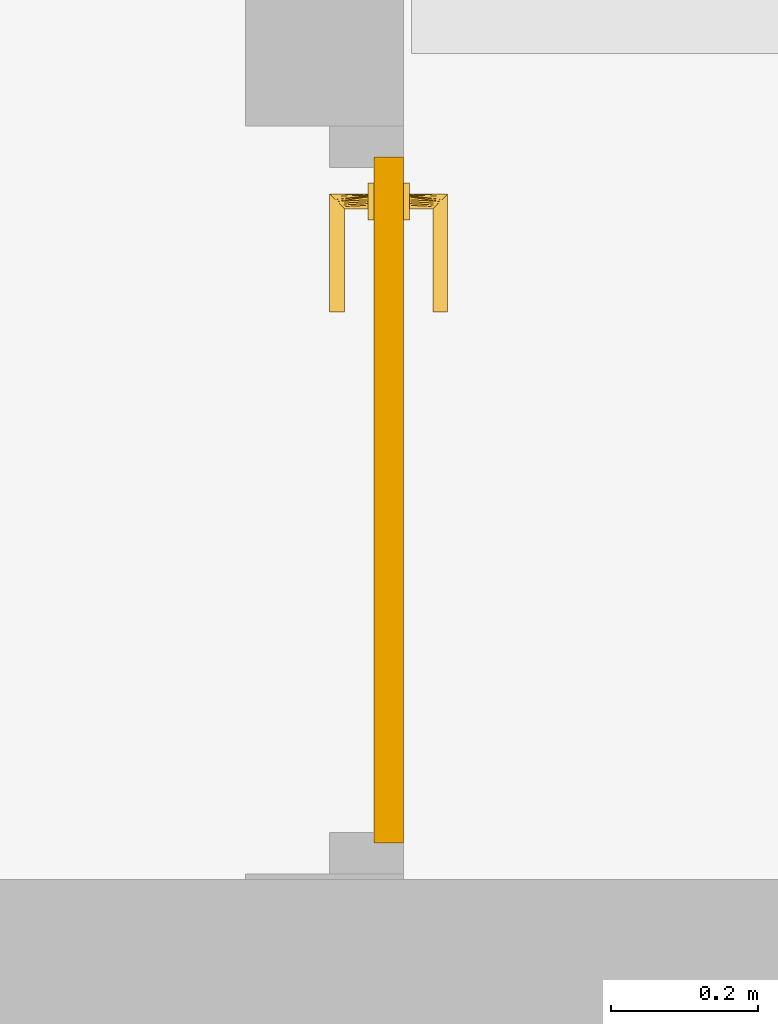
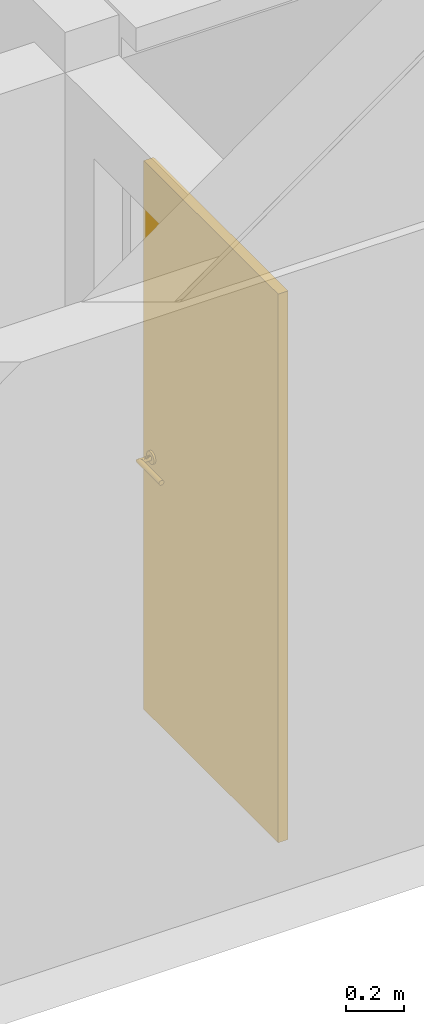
# One storey, part 16 of 22: 1 door.
"""IFC2X3 building model written with IfcOpenShell, lengths in millimetres."""

from ifc_helpers import new_model, entity, si_unit, converted_unit, derived_unit, money_unit, direction, frame, origin_with_axes, place, context, subcontext, project, spatial, faceted_brep, source, transform, mapped, material, type_object, type_shapes, element, save


model = new_model("IFC2X3")

# Units and contexts
model_context = context("Model", 3, precision=0.01, world=origin_with_axes(), true_north=direction((0.0, 1.0)))
body_context = subcontext(model_context, "Body", "Model", "MODEL_VIEW")
ifc_project = project(units=[si_unit("LENGTHUNIT", "METRE", prefix="MILLI"), si_unit("AREAUNIT", "SQUARE_METRE"), si_unit("VOLUMEUNIT", "CUBIC_METRE"), converted_unit("PLANEANGLEUNIT", "DEGREE", entity("IfcPlaneAngleMeasure", 0.0174532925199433), si_unit("PLANEANGLEUNIT", "RADIAN"), dimensions=[0, 0, 0, 0, 0, 0, 0]), money_unit("EUR"), converted_unit("TIMEUNIT", "Year", entity("IfcTimeMeasure", 31557600.0), si_unit("TIMEUNIT", "SECOND"), dimensions=[0, 0, 1, 0, 0, 0, 0]), si_unit("MASSUNIT", "GRAM", prefix="KILO"), si_unit("THERMODYNAMICTEMPERATUREUNIT", "DEGREE_CELSIUS"), si_unit("LUMINOUSINTENSITYUNIT", "LUMEN"), si_unit("ENERGYUNIT", "JOULE", prefix="MEGA"), derived_unit("THERMALCONDUCTANCEUNIT", [(si_unit("POWERUNIT", "WATT"), 1), (si_unit("LENGTHUNIT", "METRE"), -1), (si_unit("THERMODYNAMICTEMPERATUREUNIT", "KELVIN"), -1)]), derived_unit("SPECIFICHEATCAPACITYUNIT", [(si_unit("ENERGYUNIT", "JOULE"), 1), (si_unit("MASSUNIT", "GRAM", prefix="KILO"), -1), (si_unit("THERMODYNAMICTEMPERATUREUNIT", "KELVIN"), -1)]), derived_unit("MASSDENSITYUNIT", [(si_unit("MASSUNIT", "GRAM", prefix="KILO"), 1), (si_unit("VOLUMEUNIT", "CUBIC_METRE"), -1)])], contexts=[model_context])

# Site, building, storey
site_placement = place(None, origin_with_axes())
site = spatial("IfcSite", under=ifc_project, at=site_placement, Name="Site", CompositionType="ELEMENT")
building_placement = place(site_placement, origin_with_axes())
building = spatial("IfcBuilding", under=site, at=building_placement, Name="Naam gebouw", CompositionType="ELEMENT")
storey_placement = place(building_placement, frame((0.0, 0.0, 8690.0), z_axis=(0.0, 0.0, 1.0), x_axis=(1.0, 0.0, 0.0)))
storey = spatial("IfcBuildingStorey", under=building, at=storey_placement, Name="2e verdieping V", CompositionType="ELEMENT", Elevation=8690.0)

# Door
ifc_material = material(Name="<Unnamed>")
door_style = type_object("IfcDoorStyle", Name="NLRS_32_deur stomp dicht_WID:Deur", ConstructionType="NOTDEFINED", OperationType="NOTDEFINED", ParameterTakesPrecedence=False, Sizeable=False)
shared_shape = source(origin_with_axes(), body_context, "Body", "Brep", [
    faceted_brep([(417.5000000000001, -65.96445239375, 1078.34936490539), (407.58819045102, -65.96445239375, 1090.34074173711), (410.0000000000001, -65.96445239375, 1091.33974596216), (411.4704761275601, -65.96445239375, 1075.85185434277), (410.0000000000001, -74.00000000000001, 1091.33974596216), (407.58819045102, -74.00000000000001, 1090.34074173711), (422.6776695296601, -65.96445239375, 1082.32233047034), (411.4704761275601, -74.00000000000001, 1075.85185434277), (417.5000000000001, -74.00000000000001, 1078.34936490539), (405.0, -65.96445239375, 1090.0), (412.0710678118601, -74.00000000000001, 1092.92893218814), (412.0710678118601, -65.96445239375, 1092.92893218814), (405.0, -74.00000000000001, 1090.0), (422.6776695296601, -74.00000000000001, 1082.32233047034), (405.0, -74.00000000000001, 1075.0), (405.0, -65.96445239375, 1075.0), (413.66025403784, -65.96445239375, 1095.0), (413.66025403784, -74.00000000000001, 1095.0), (402.41180954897, -74.00000000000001, 1090.34074173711), (402.41180954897, -65.96445239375, 1090.34074173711), (426.6506350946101, -65.96445239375, 1087.5), (426.6506350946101, -74.00000000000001, 1087.5), (398.52952387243, -74.00000000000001, 1075.85185434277), (398.52952387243, -65.96445239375, 1075.85185434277), (414.65925826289, -74.00000000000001, 1097.41180954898), (414.65925826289, -65.96445239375, 1097.41180954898), (400.0, -65.96445239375, 1091.33974596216), (400.0, -74.00000000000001, 1091.33974596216), (429.14814565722, -74.00000000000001, 1093.52952387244), (429.14814565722, -65.96445239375, 1093.52952387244), (392.5, -74.00000000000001, 1078.34936490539), (392.5, -65.96445239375, 1078.34936490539), (415.0000000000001, -74.00000000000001, 1100.0), (415.0000000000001, -65.96445239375, 1100.0), (397.92893218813, -65.96445239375, 1092.92893218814), (397.92893218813, -74.00000000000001, 1092.92893218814), (430.0000000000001, -65.96445239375, 1100.0), (430.0000000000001, -74.00000000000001, 1100.0), (387.32233047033, -74.00000000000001, 1082.32233047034), (387.32233047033, -65.96445239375, 1082.32233047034), (414.65925826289, -74.00000000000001, 1102.58819045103), (414.65925826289, -65.96445239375, 1102.58819045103), (396.3397459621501, -65.96445239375, 1095.0), (396.3397459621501, -74.00000000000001, 1095.0), (429.14814565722, -65.96445239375, 1106.47047612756), (429.14814565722, -74.00000000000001, 1106.47047612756), (383.3493649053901, -74.00000000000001, 1087.5), (383.3493649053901, -65.96445239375, 1087.5), (413.66025403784, -74.00000000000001, 1105.0), (413.66025403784, -65.96445239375, 1105.0), (395.34074173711, -65.96445239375, 1097.41180954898), (395.34074173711, -74.00000000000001, 1097.41180954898), (426.6506350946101, -65.96445239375, 1112.5), (426.6506350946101, -74.00000000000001, 1112.5), (380.8518543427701, -74.00000000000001, 1093.52952387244), (380.8518543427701, -65.96445239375, 1093.52952387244), (412.0710678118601, -65.96445239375, 1107.07106781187), (412.0710678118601, -74.00000000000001, 1107.07106781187), (395.0, -65.96445239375, 1100.0), (395.0, -74.00000000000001, 1100.0), (422.6776695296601, -65.96445239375, 1117.67766952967), (422.6776695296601, -74.00000000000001, 1117.67766952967), (380.0000000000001, -74.00000000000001, 1100.0), (380.0000000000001, -65.96445239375, 1100.0), (410.0000000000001, -74.00000000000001, 1108.66025403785), (410.0000000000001, -65.96445239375, 1108.66025403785), (395.34074173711, -65.96445239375, 1102.58819045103), (395.34074173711, -74.00000000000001, 1102.58819045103), (417.5000000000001, -74.00000000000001, 1121.65063509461), (417.5000000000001, -65.96445239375, 1121.65063509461), (380.8518543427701, -74.00000000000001, 1106.47047612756), (380.8518543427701, -65.96445239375, 1106.47047612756), (407.58819045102, -74.00000000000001, 1109.65925826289), (407.58819045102, -65.96445239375, 1109.65925826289), (396.3397459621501, -65.96445239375, 1105.0), (396.3397459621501, -74.00000000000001, 1105.0), (411.4704761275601, -74.00000000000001, 1124.14814565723), (411.4704761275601, -65.96445239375, 1124.14814565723), (383.3493649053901, -74.00000000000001, 1112.5), (383.3493649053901, -65.96445239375, 1112.5), (405.0, -74.00000000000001, 1110.0), (405.0, -65.96445239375, 1110.0), (397.92893218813, -65.96445239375, 1107.07106781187), (397.92893218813, -74.00000000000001, 1107.07106781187), (405.0, -65.96445239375, 1125.0), (405.0, -74.00000000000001, 1125.0), (387.32233047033, -74.00000000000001, 1117.67766952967), (387.32233047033, -65.96445239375, 1117.67766952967), (402.41180954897, -74.00000000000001, 1109.65925826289), (402.41180954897, -65.96445239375, 1109.65925826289), (400.0, -65.96445239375, 1108.66025403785), (400.0, -74.00000000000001, 1108.66025403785), (398.52952387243, -65.96445239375, 1124.14814565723), (398.52952387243, -74.00000000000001, 1124.14814565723), (392.5, -74.00000000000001, 1121.65063509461), (392.5, -65.96445239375, 1121.65063509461)], [[[0, 1, 2]], [[0, 3, 1]], [[4, 2, 1, 5]], [[0, 2, 6]], [[7, 3, 0, 8]], [[9, 1, 3]], [[10, 11, 2, 4]], [[5, 1, 9, 12]], [[5, 8, 4]], [[11, 6, 2]], [[6, 13, 8, 0]], [[14, 15, 3, 7]], [[8, 5, 7]], [[15, 9, 3]], [[16, 11, 10, 17]], [[10, 4, 13]], [[18, 12, 9, 19]], [[12, 7, 5]], [[4, 8, 13]], [[11, 20, 6]], [[21, 13, 6, 20]], [[22, 23, 15, 14]], [[14, 7, 12]], [[9, 15, 19]], [[16, 20, 11]], [[17, 10, 21]], [[16, 17, 24, 25]], [[21, 10, 13]], [[12, 18, 14]], [[26, 27, 18, 19]], [[28, 21, 20, 29]], [[22, 30, 31, 23]], [[23, 19, 15]], [[22, 14, 18]], [[20, 16, 25]], [[28, 17, 21]], [[17, 28, 24]], [[25, 24, 32, 33]], [[34, 35, 27, 26]], [[27, 22, 18]], [[23, 26, 19]], [[20, 25, 29]], [[28, 29, 36, 37]], [[27, 30, 22]], [[30, 38, 39, 31]], [[26, 23, 31]], [[24, 28, 37]], [[37, 32, 24]], [[40, 41, 33, 32]], [[25, 33, 29]], [[34, 42, 43, 35]], [[30, 27, 35]], [[26, 31, 34]], [[36, 29, 33]], [[37, 36, 44, 45]], [[38, 30, 35]], [[39, 38, 46, 47]], [[39, 34, 31]], [[37, 45, 32]], [[48, 49, 41, 40]], [[36, 33, 41]], [[40, 32, 45]], [[34, 39, 42]], [[43, 42, 50, 51]], [[35, 43, 38]], [[41, 44, 36]], [[45, 44, 52, 53]], [[43, 46, 38]], [[54, 55, 47, 46]], [[42, 39, 47]], [[56, 49, 48, 57]], [[49, 44, 41]], [[53, 48, 40]], [[53, 40, 45]], [[42, 47, 50]], [[51, 50, 58, 59]], [[43, 51, 54]], [[44, 49, 52]], [[60, 61, 53, 52]], [[46, 43, 54]], [[62, 63, 55, 54]], [[50, 47, 55]], [[49, 56, 52]], [[48, 53, 57]], [[56, 57, 64, 65]], [[58, 50, 55]], [[66, 67, 59, 58]], [[51, 59, 62]], [[54, 51, 62]], [[68, 61, 60, 69]], [[57, 53, 61]], [[52, 56, 60]], [[70, 71, 63, 62]], [[63, 58, 55]], [[57, 61, 64]], [[65, 64, 72, 73]], [[56, 65, 60]], [[74, 75, 67, 66]], [[59, 67, 70]], [[66, 58, 63]], [[62, 59, 70]], [[68, 64, 61]], [[65, 69, 60]], [[76, 68, 69, 77]], [[70, 78, 79, 71]], [[71, 66, 63]], [[68, 72, 64]], [[72, 80, 81, 73]], [[73, 69, 65]], [[74, 82, 83, 75]], [[75, 78, 67]], [[74, 66, 71]], [[67, 78, 70]], [[68, 76, 72]], [[69, 73, 77]], [[76, 77, 84, 85]], [[78, 86, 87, 79]], [[79, 74, 71]], [[80, 72, 76]], [[88, 89, 81, 80]], [[81, 77, 73]], [[82, 74, 87]], [[83, 82, 90, 91]], [[83, 86, 75]], [[75, 86, 78]], [[84, 77, 81]], [[85, 84, 92, 93]], [[85, 80, 76]], [[87, 86, 94, 95]], [[74, 79, 87]], [[91, 90, 89, 88]], [[81, 89, 84]], [[80, 85, 88]], [[87, 95, 82]], [[95, 90, 82]], [[91, 94, 83]], [[86, 83, 94]], [[92, 84, 89]], [[93, 92, 95, 94]], [[93, 88, 85]], [[90, 92, 89]], [[93, 91, 88]], [[90, 95, 92]], [[91, 93, 94]]]),
    faceted_brep([(405.0, -74.00000000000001, 1090.0), (407.58819045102, -74.00000000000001, 1090.34074173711), (410.0000000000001, -74.00000000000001, 1091.33974596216), (412.0710678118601, -74.00000000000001, 1092.92893218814), (413.66025403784, -74.00000000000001, 1095.0), (414.65925826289, -74.00000000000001, 1097.41180954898), (415.0000000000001, -74.00000000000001, 1100.0), (414.65925826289, -74.00000000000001, 1102.58819045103), (413.66025403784, -74.00000000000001, 1105.0), (412.0710678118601, -74.00000000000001, 1107.07106781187), (410.0000000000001, -74.00000000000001, 1108.66025403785), (407.58819045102, -74.00000000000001, 1109.65925826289), (405.0, -74.00000000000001, 1110.0), (402.41180954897, -74.00000000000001, 1109.65925826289), (400.0, -74.00000000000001, 1108.66025403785), (397.92893218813, -74.00000000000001, 1107.07106781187), (396.3397459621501, -74.00000000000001, 1105.0), (395.34074173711, -74.00000000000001, 1102.58819045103), (395.0, -74.00000000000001, 1100.0), (395.34074173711, -74.00000000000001, 1097.41180954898), (396.3397459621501, -74.00000000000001, 1095.0), (397.92893218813, -74.00000000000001, 1092.92893218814), (400.0, -74.00000000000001, 1091.33974596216), (402.41180954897, -74.00000000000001, 1090.34074173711), (402.41180954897, -26.58819045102, 1090.34074173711), (405.0, -24.0, 1090.0), (407.58819045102, -21.41180954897, 1090.34074173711), (412.0710678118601, -16.92893218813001, 1092.92893218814), (414.65925826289, -14.34074173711, 1097.41180954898), (415.0000000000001, -14.0, 1100.0), (414.65925826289, -14.34074173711, 1102.58819045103), (412.0710678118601, -16.92893218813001, 1107.07106781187), (407.58819045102, -21.41180954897, 1109.65925826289), (405.0, -24.0, 1110.0), (402.41180954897, -26.58819045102, 1109.65925826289), (400.0, -29.0, 1108.66025403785), (397.92893218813, -31.07106781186, 1107.07106781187), (396.3397459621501, -32.66025403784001, 1105.0), (395.34074173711, -33.65925826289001, 1102.58819045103), (395.0, -34.0, 1100.0), (395.34074173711, -33.65925826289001, 1097.41180954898), (396.3397459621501, -32.66025403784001, 1095.0), (397.92893218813, -31.07106781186, 1092.92893218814), (400.0, -29.0, 1091.33974596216), (410.0000000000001, -19.0, 1091.33974596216), (413.66025403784, -15.33974596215, 1095.0), (255.0, -14.34074173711, 1097.41180954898), (255.0, -14.0, 1100.0), (255.0, -14.34074173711, 1102.58819045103), (413.66025403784, -15.33974596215, 1105.0), (410.0000000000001, -19.0, 1108.66025403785), (255.0, -32.66025403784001, 1105.0), (255.0, -33.65925826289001, 1102.58819045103), (255.0, -34.0, 1100.0), (255.0, -33.65925826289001, 1097.41180954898), (255.0, -32.66025403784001, 1095.0), (255.0, -29.0, 1091.33974596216), (255.0, -26.58819045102, 1090.34074173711), (255.0, -24.0, 1090.0), (255.0, -21.41180954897, 1090.34074173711), (255.0, -19.0, 1091.33974596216), (255.0, -16.92893218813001, 1092.92893218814), (255.0, -15.33974596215, 1095.0), (255.0, -31.07106781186, 1092.92893218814), (255.0, -31.07106781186, 1107.07106781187), (255.0, -29.0, 1108.66025403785), (255.0, -26.58819045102, 1109.65925826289), (255.0, -24.0, 1110.0), (255.0, -21.41180954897, 1109.65925826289), (255.0, -19.0, 1108.66025403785), (255.0, -16.92893218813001, 1107.07106781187), (255.0, -15.33974596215, 1105.0)], [[[0, 1, 2, 3, 4, 5, 6, 7, 8, 9, 10, 11, 12, 13, 14, 15, 16, 17, 18, 19, 20, 21, 22, 23]], [[1, 0, 24]], [[2, 1, 25]], [[25, 3, 2]], [[26, 4, 3]], [[5, 4, 27]], [[28, 29, 6, 5]], [[29, 30, 7, 6]], [[31, 8, 7]], [[8, 32, 9]], [[9, 33, 10]], [[33, 11, 10]], [[11, 34, 12]], [[12, 35, 13]], [[14, 13, 36]], [[37, 15, 14]], [[15, 37, 16]], [[16, 37, 38, 17]], [[18, 17, 38, 39]], [[19, 18, 39, 40]], [[20, 19, 40, 41]], [[20, 41, 21]], [[41, 22, 21]], [[23, 22, 42]], [[43, 0, 23]], [[0, 43, 24]], [[24, 25, 1]], [[25, 26, 3]], [[26, 44, 4]], [[44, 27, 4]], [[5, 27, 45]], [[28, 46, 47, 29]], [[28, 5, 45]], [[30, 29, 47, 48]], [[30, 49, 7]], [[50, 8, 31]], [[7, 49, 31]], [[32, 8, 50]], [[33, 9, 32]], [[11, 33, 34]], [[34, 35, 12]], [[13, 35, 36]], [[14, 36, 37]], [[38, 37, 51, 52]], [[39, 38, 52, 53]], [[39, 53, 54, 40]], [[40, 54, 55, 41]], [[22, 41, 42]], [[23, 42, 43]], [[43, 56, 57, 24]], [[58, 25, 24, 57]], [[26, 25, 58, 59]], [[26, 59, 60, 44]], [[44, 60, 61, 27]], [[27, 61, 62, 45]], [[45, 62, 46, 28]], [[60, 59, 58, 57, 56, 63, 55, 54, 53, 52, 51, 64, 65, 66, 67, 68, 69, 70, 71, 48, 47, 46, 62, 61]], [[49, 30, 48, 71]], [[50, 31, 70, 69]], [[31, 49, 71, 70]], [[32, 50, 69, 68]], [[68, 67, 33, 32]], [[34, 33, 67, 66]], [[35, 34, 66, 65]], [[36, 35, 65, 64]], [[37, 36, 64, 51]], [[41, 55, 63, 42]], [[42, 63, 56, 43]]]),
    faceted_brep([(410.0000000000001, -122.03554760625, 1091.33974596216), (407.58819045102, -122.03554760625, 1090.34074173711), (417.4999999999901, -122.03554760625, 1078.34936490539), (410.0000000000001, -114.0, 1091.33974596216), (407.58819045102, -114.0, 1090.34074173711), (411.4704761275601, -122.03554760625, 1075.85185434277), (422.6776695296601, -122.03554760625, 1082.32233047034), (412.0710678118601, -122.03554760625, 1092.92893218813), (412.0710678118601, -114.0, 1092.92893218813), (417.4999999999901, -114.0, 1078.34936490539), (405.0, -114.0, 1090.0), (405.0, -122.03554760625, 1090.0), (411.4704761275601, -114.0, 1075.85185434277), (422.6776695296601, -114.0, 1082.32233047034), (413.66025403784, -114.0, 1095.0), (413.66025403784, -122.03554760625, 1095.0), (402.41180954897, -122.03554760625, 1090.34074173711), (402.41180954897, -114.0, 1090.34074173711), (405.0, -122.03554760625, 1075.0), (405.0, -114.0, 1075.0), (426.6506350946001, -122.03554760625, 1087.5), (426.6506350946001, -114.0, 1087.5), (414.65925826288, -122.03554760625, 1097.41180954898), (414.65925826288, -114.0, 1097.41180954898), (400.0, -114.0, 1091.33974596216), (400.0, -122.03554760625, 1091.33974596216), (398.52952387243, -122.03554760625, 1075.85185434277), (398.52952387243, -114.0, 1075.85185434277), (429.14814565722, -122.03554760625, 1093.52952387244), (429.14814565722, -114.0, 1093.52952387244), (415.0000000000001, -122.03554760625, 1100.0), (415.0000000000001, -114.0, 1100.0), (397.92893218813, -114.0, 1092.92893218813), (397.92893218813, -122.03554760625, 1092.92893218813), (392.4999999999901, -122.03554760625, 1078.34936490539), (392.4999999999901, -114.0, 1078.34936490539), (430.0000000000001, -122.03554760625, 1100.0), (430.0000000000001, -114.0, 1100.0), (414.65925826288, -122.03554760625, 1102.58819045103), (414.65925826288, -114.0, 1102.58819045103), (396.3397459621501, -114.0, 1095.0), (396.3397459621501, -122.03554760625, 1095.0), (387.32233047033, -122.03554760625, 1082.32233047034), (387.32233047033, -114.0, 1082.32233047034), (429.14814565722, -114.0, 1106.47047612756), (429.14814565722, -122.03554760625, 1106.47047612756), (413.66025403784, -122.03554760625, 1105.0), (413.66025403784, -114.0, 1105.0), (395.3407417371, -122.03554760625, 1097.41180954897), (395.3407417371, -114.0, 1097.41180954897), (383.3493649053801, -114.0, 1087.5), (383.3493649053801, -122.03554760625, 1087.5), (426.6506350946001, -114.0, 1112.5), (426.6506350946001, -122.03554760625, 1112.5), (412.0710678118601, -114.0, 1107.07106781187), (412.0710678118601, -122.03554760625, 1107.07106781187), (380.8518543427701, -114.0, 1093.52952387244), (395.0, -122.03554760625, 1100.0), (395.0, -114.0, 1100.0), (380.8518543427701, -122.03554760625, 1093.52952387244), (422.6776695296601, -114.0, 1117.67766952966), (422.6776695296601, -122.03554760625, 1117.67766952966), (410.0000000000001, -122.03554760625, 1108.66025403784), (410.0000000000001, -114.0, 1108.66025403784), (380.0000000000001, -114.0, 1100.0), (395.3407417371, -114.0, 1102.58819045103), (395.3407417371, -122.03554760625, 1102.58819045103), (380.0000000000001, -122.03554760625, 1100.0), (417.4999999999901, -122.03554760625, 1121.65063509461), (417.4999999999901, -114.0, 1121.65063509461), (407.58819045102, -122.03554760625, 1109.65925826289), (407.58819045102, -114.0, 1109.65925826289), (380.8518543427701, -114.0, 1106.47047612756), (396.3397459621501, -114.0, 1105.0), (396.3397459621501, -122.03554760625, 1105.0), (380.8518543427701, -122.03554760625, 1106.47047612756), (411.4704761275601, -122.03554760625, 1124.14814565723), (411.4704761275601, -114.0, 1124.14814565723), (405.0, -122.03554760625, 1110.0), (405.0, -114.0, 1110.0), (383.3493649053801, -114.0, 1112.5), (397.92893218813, -114.0, 1107.07106781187), (397.92893218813, -122.03554760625, 1107.07106781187), (383.3493649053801, -122.03554760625, 1112.5), (405.0, -122.03554760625, 1125.0), (405.0, -114.0, 1125.0), (402.41180954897, -122.03554760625, 1109.65925826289), (402.41180954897, -114.0, 1109.65925826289), (387.32233047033, -114.0, 1117.67766952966), (400.0, -122.03554760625, 1108.66025403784), (400.0, -114.0, 1108.66025403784), (387.32233047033, -122.03554760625, 1117.67766952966), (398.52952387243, -114.0, 1124.14814565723), (398.52952387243, -122.03554760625, 1124.14814565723), (392.4999999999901, -114.0, 1121.65063509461), (392.4999999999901, -122.03554760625, 1121.65063509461)], [[[0, 1, 2]], [[1, 0, 3, 4]], [[1, 5, 2]], [[6, 0, 2]], [[0, 7, 8, 3]], [[3, 9, 4]], [[10, 11, 1, 4]], [[5, 1, 11]], [[9, 2, 5, 12]], [[0, 6, 7]], [[9, 13, 6, 2]], [[14, 8, 7, 15]], [[13, 3, 8]], [[13, 9, 3]], [[12, 4, 9]], [[16, 11, 10, 17]], [[4, 12, 10]], [[5, 11, 18]], [[12, 5, 18, 19]], [[6, 20, 7]], [[20, 6, 13, 21]], [[21, 8, 14]], [[7, 20, 15]], [[22, 23, 14, 15]], [[13, 8, 21]], [[16, 18, 11]], [[19, 17, 10]], [[16, 17, 24, 25]], [[10, 12, 19]], [[18, 26, 27, 19]], [[28, 20, 21, 29]], [[21, 14, 29]], [[22, 15, 20]], [[30, 31, 23, 22]], [[23, 29, 14]], [[18, 16, 26]], [[17, 19, 27]], [[17, 27, 24]], [[25, 24, 32, 33]], [[16, 25, 26]], [[26, 34, 35, 27]], [[28, 22, 20]], [[36, 28, 29, 37]], [[30, 38, 39, 31]], [[23, 31, 37]], [[28, 30, 22]], [[37, 29, 23]], [[27, 35, 24]], [[32, 24, 35]], [[32, 40, 41, 33]], [[33, 34, 25]], [[34, 26, 25]], [[34, 42, 43, 35]], [[30, 28, 36]], [[44, 45, 36, 37]], [[38, 30, 36]], [[38, 46, 47, 39]], [[44, 31, 39]], [[31, 44, 37]], [[32, 35, 43]], [[43, 40, 32]], [[48, 41, 40, 49]], [[41, 42, 33]], [[34, 33, 42]], [[50, 43, 42, 51]], [[52, 53, 45, 44]], [[36, 45, 38]], [[38, 45, 46]], [[54, 47, 46, 55]], [[39, 47, 52]], [[44, 39, 52]], [[43, 50, 40]], [[48, 51, 41]], [[56, 49, 40]], [[57, 48, 49, 58]], [[51, 42, 41]], [[50, 51, 59, 56]], [[52, 60, 61, 53]], [[53, 46, 45]], [[54, 52, 47]], [[53, 55, 46]], [[62, 63, 54, 55]], [[56, 40, 50]], [[59, 51, 48]], [[64, 49, 56]], [[59, 48, 57]], [[64, 58, 49]], [[57, 58, 65, 66]], [[56, 59, 67, 64]], [[60, 52, 54]], [[68, 61, 60, 69]], [[61, 55, 53]], [[70, 71, 63, 62]], [[63, 60, 54]], [[61, 62, 55]], [[59, 57, 67]], [[72, 58, 64]], [[72, 65, 58]], [[66, 65, 73, 74]], [[67, 57, 66]], [[67, 75, 72, 64]], [[61, 68, 62]], [[60, 63, 69]], [[76, 68, 69, 77]], [[70, 78, 79, 71]], [[63, 71, 69]], [[62, 68, 70]], [[72, 80, 65]], [[65, 80, 73]], [[73, 81, 82, 74]], [[75, 66, 74]], [[67, 66, 75]], [[75, 83, 80, 72]], [[76, 70, 68]], [[71, 77, 69]], [[84, 76, 77, 85]], [[70, 76, 78]], [[79, 78, 86, 87]], [[77, 71, 79]], [[80, 88, 73]], [[73, 88, 81]], [[89, 82, 81, 90]], [[91, 74, 82]], [[75, 74, 83]], [[83, 91, 88, 80]], [[78, 76, 84]], [[77, 79, 85]], [[92, 93, 84, 85]], [[84, 86, 78]], [[86, 89, 90, 87]], [[87, 85, 79]], [[94, 81, 88]], [[82, 89, 95]], [[81, 94, 90]], [[91, 83, 74]], [[82, 95, 91]], [[94, 88, 91, 95]], [[94, 95, 93, 92]], [[86, 84, 93]], [[85, 87, 92]], [[86, 93, 89]], [[87, 90, 92]], [[93, 95, 89]], [[94, 92, 90]]]),
    faceted_brep([(410.0000000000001, -114.0, 1091.33974596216), (407.58819045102, -114.0, 1090.34074173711), (405.0, -114.0, 1090.0), (402.41180954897, -114.0, 1090.34074173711), (400.0, -114.0, 1091.33974596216), (397.92893218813, -114.0, 1092.92893218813), (396.3397459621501, -114.0, 1095.0), (395.3407417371, -114.0, 1097.41180954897), (395.0, -114.0, 1100.0), (395.3407417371, -114.0, 1102.58819045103), (396.3397459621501, -114.0, 1105.0), (397.92893218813, -114.0, 1107.07106781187), (400.0, -114.0, 1108.66025403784), (402.41180954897, -114.0, 1109.65925826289), (405.0, -114.0, 1110.0), (407.58819045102, -114.0, 1109.65925826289), (410.0000000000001, -114.0, 1108.66025403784), (412.0710678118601, -114.0, 1107.07106781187), (413.66025403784, -114.0, 1105.0), (414.65925826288, -114.0, 1102.58819045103), (415.0000000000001, -114.0, 1100.0), (414.65925826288, -114.0, 1097.41180954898), (413.66025403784, -114.0, 1095.0), (412.0710678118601, -114.0, 1092.92893218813), (405.0, -164.0, 1090.0), (402.41180954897, -161.41180954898, 1090.34074173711), (400.0, -159.0, 1091.33974596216), (397.92893218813, -156.92893218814, 1092.92893218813), (396.3397459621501, -155.33974596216, 1095.0), (395.3407417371, -154.3407417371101, 1097.41180954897), (395.0, -154.0, 1100.0), (395.3407417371, -154.3407417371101, 1102.58819045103), (396.3397459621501, -155.33974596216, 1105.0), (397.92893218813, -156.92893218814, 1107.07106781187), (400.0, -159.0, 1108.66025403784), (402.41180954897, -161.41180954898, 1109.65925826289), (405.0, -164.0, 1110.0), (407.58819045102, -166.58819045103, 1109.65925826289), (412.0710678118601, -171.07106781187, 1107.07106781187), (414.65925826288, -173.65925826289, 1102.58819045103), (415.0000000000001, -174.0, 1100.0), (414.65925826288, -173.65925826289, 1097.41180954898), (412.0710678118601, -171.07106781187, 1092.92893218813), (407.58819045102, -166.58819045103, 1090.34074173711), (255.0, -155.33974596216, 1095.0), (255.0, -154.3407417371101, 1097.41180954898), (255.0, -154.0, 1100.0), (255.0, -154.3407417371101, 1102.58819045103), (255.0, -155.33974596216, 1105.0), (410.0000000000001, -169.0, 1108.66025403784), (413.66025403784, -172.66025403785, 1105.0), (255.0, -173.65925826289, 1102.58819045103), (255.0, -174.0, 1100.0), (255.0, -173.65925826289, 1097.41180954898), (413.66025403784, -172.66025403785, 1095.0), (410.0000000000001, -169.0, 1091.33974596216), (255.0, -161.41180954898, 1090.34074173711), (255.0, -164.0, 1090.0), (255.0, -159.0, 1091.33974596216), (255.0, -156.92893218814, 1092.92893218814), (255.0, -166.58819045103, 1090.34074173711), (255.0, -169.0, 1091.33974596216), (255.0, -171.07106781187, 1092.92893218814), (255.0, -172.66025403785, 1095.0), (255.0, -172.66025403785, 1105.0), (255.0, -171.07106781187, 1107.07106781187), (255.0, -169.0, 1108.66025403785), (255.0, -166.58819045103, 1109.65925826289), (255.0, -164.0, 1110.0), (255.0, -161.41180954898, 1109.65925826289), (255.0, -159.0, 1108.66025403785), (255.0, -156.92893218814, 1107.07106781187)], [[[0, 1, 2, 3, 4, 5, 6, 7, 8, 9, 10, 11, 12, 13, 14, 15, 16, 17, 18, 19, 20, 21, 22, 23]], [[24, 1, 0]], [[25, 2, 1]], [[3, 2, 26]], [[27, 4, 3]], [[5, 4, 28]], [[5, 28, 6]], [[28, 29, 7, 6]], [[29, 30, 8, 7]], [[30, 31, 9, 8]], [[31, 32, 10, 9]], [[10, 32, 11]], [[12, 11, 32]], [[33, 13, 12]], [[13, 34, 14]], [[14, 35, 15]], [[16, 15, 36]], [[16, 36, 17]], [[17, 37, 18]], [[19, 18, 38]], [[20, 19, 39, 40]], [[20, 40, 41, 21]], [[42, 22, 21]], [[23, 22, 43]], [[0, 23, 24]], [[1, 24, 25]], [[25, 26, 2]], [[26, 27, 3]], [[27, 28, 4]], [[44, 45, 29, 28]], [[45, 46, 30, 29]], [[46, 47, 31, 30]], [[47, 48, 32, 31]], [[32, 33, 12]], [[33, 34, 13]], [[14, 34, 35]], [[35, 36, 15]], [[37, 17, 36]], [[49, 18, 37]], [[38, 18, 49]], [[38, 50, 19]], [[19, 50, 39]], [[51, 52, 40, 39]], [[52, 53, 41, 40]], [[54, 21, 41]], [[22, 42, 55]], [[54, 42, 21]], [[22, 55, 43]], [[23, 43, 24]], [[56, 25, 24, 57]], [[56, 58, 26, 25]], [[58, 59, 27, 26]], [[59, 44, 28, 27]], [[57, 60, 61, 62, 63, 53, 52, 51, 64, 65, 66, 67, 68, 69, 70, 71, 48, 47, 46, 45, 44, 59, 58, 56]], [[48, 71, 33, 32]], [[71, 70, 34, 33]], [[70, 69, 35, 34]], [[68, 36, 35, 69]], [[37, 36, 68, 67]], [[67, 66, 49, 37]], [[66, 65, 38, 49]], [[65, 64, 50, 38]], [[64, 51, 39, 50]], [[53, 63, 54, 41]], [[62, 61, 55, 42]], [[63, 62, 42, 54]], [[61, 60, 43, 55]], [[60, 57, 24, 43]]]),
    faceted_brep([(465.0, -114.0, 0.0), (-465.0, -114.0, 0.0), (-465.0, -74.00000000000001, 0.0), (465.0, -74.00000000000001, 0.0), (-465.0, -114.0, 2315.0), (465.0, -114.0, 2315.0), (-465.0, -74.00000000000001, 2315.0), (465.0, -74.00000000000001, 2315.0)], [[[0, 1, 2, 3]], [[4, 1, 0, 5]], [[6, 2, 1, 4]], [[7, 3, 2, 6]], [[5, 0, 3, 7]], [[5, 7, 6, 4]]]),
])
type_shapes(door_style, [shared_shape])
door_placement = place(storey_placement, frame((33598.00000005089, 33440.31796988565, 0.0), z_axis=(0.0, 0.0, 1.0), x_axis=(0.0, 1.0, 0.0)))
element("IfcDoor", 1, at=door_placement, inside=storey, type_object=door_style, material=ifc_material, Name="NLRS_32_deur stomp dicht_WID:Deur", ObjectType="DOOR", context=body_context, shape_type="MappedRepresentation", body=[
    mapped(shared_shape, transform((0.0, 0.0, 0.0))),
])

save(model, "model.ifc")
